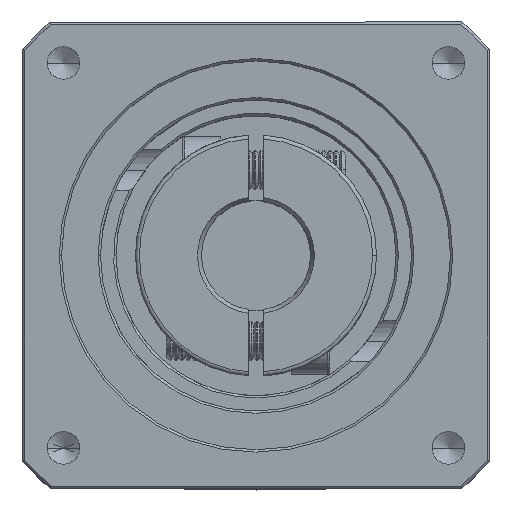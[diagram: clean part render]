
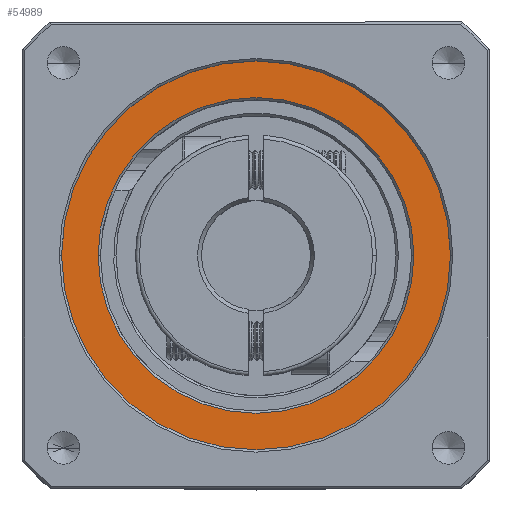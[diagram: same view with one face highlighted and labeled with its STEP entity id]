
A CAD part, top view. The second image highlights one B-rep face of the part: STEP entity #54989.
In plain terms, the highlighted planar face has unit normal (0, 0, 1).
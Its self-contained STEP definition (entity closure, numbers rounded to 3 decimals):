
#224 = DIRECTION ( 'NONE',  ( 0., 0., 1. ) ) ;
#389 = CIRCLE ( 'NONE', #19653, 25. ) ;
#4920 = EDGE_CURVE ( 'NONE', #38290, #34631, #97534, .T. ) ;
#6267 = CARTESIAN_POINT ( 'NONE',  ( -89.162, 23.581, 10.521 ) ) ;
#7974 = AXIS2_PLACEMENT_3D ( 'NONE', #37771, #90474, #45330 ) ;
#8643 = AXIS2_PLACEMENT_3D ( 'NONE', #22843, #75600, #30451 ) ;
#10474 = CIRCLE ( 'NONE', #7974, 20.3 ) ;
#14917 = PLANE ( 'NONE',  #48796 ) ;
#19653 = AXIS2_PLACEMENT_3D ( 'NONE', #35032, #87784, #42589 ) ;
#22843 = CARTESIAN_POINT ( 'NONE',  ( -68.862, 23.581, 10.521 ) ) ;
#23598 = FACE_OUTER_BOUND ( 'NONE', #31679, .T. ) ;
#25752 = CARTESIAN_POINT ( 'NONE',  ( -93.862, 23.581, 10.521 ) ) ;
#26780 = EDGE_CURVE ( 'NONE', #41508, #45451, #87997, .T. ) ;
#28083 = CARTESIAN_POINT ( 'NONE',  ( -48.562, 23.581, 10.521 ) ) ;
#30451 = DIRECTION ( 'NONE',  ( 1., 0., 0. ) ) ;
#31679 = EDGE_LOOP ( 'NONE', ( #47880, #37377 ) ) ;
#34631 = VERTEX_POINT ( 'NONE', #82937 ) ;
#35032 = CARTESIAN_POINT ( 'NONE',  ( -68.862, 23.581, 10.521 ) ) ;
#36239 = EDGE_CURVE ( 'NONE', #45451, #41508, #10474, .T. ) ;
#36837 = ORIENTED_EDGE ( 'NONE', *, *, #26780, .T. ) ;
#37377 = ORIENTED_EDGE ( 'NONE', *, *, #4920, .T. ) ;
#37771 = CARTESIAN_POINT ( 'NONE',  ( -68.862, 23.581, 10.521 ) ) ;
#38290 = VERTEX_POINT ( 'NONE', #25752 ) ;
#39940 = DIRECTION ( 'NONE',  ( 1., 0., 0. ) ) ;
#40073 = DIRECTION ( 'NONE',  ( 0., 0., 1. ) ) ;
#41508 = VERTEX_POINT ( 'NONE', #6267 ) ;
#42589 = DIRECTION ( 'NONE',  ( 1., 0., 0. ) ) ;
#43779 = EDGE_CURVE ( 'NONE', #34631, #38290, #389, .T. ) ;
#45198 = CARTESIAN_POINT ( 'NONE',  ( -68.862, 23.581, 10.521 ) ) ;
#45330 = DIRECTION ( 'NONE',  ( 1., 0., 0. ) ) ;
#45451 = VERTEX_POINT ( 'NONE', #28083 ) ;
#47880 = ORIENTED_EDGE ( 'NONE', *, *, #43779, .T. ) ;
#48796 = AXIS2_PLACEMENT_3D ( 'NONE', #45198, #224, #52830 ) ;
#52830 = DIRECTION ( 'NONE',  ( 1., 0., 0. ) ) ;
#54989 = ADVANCED_FACE ( 'NONE', ( #81414, #23598 ), #14917, .T. ) ;
#57520 = AXIS2_PLACEMENT_3D ( 'NONE', #63216, #40073, #39940 ) ;
#63216 = CARTESIAN_POINT ( 'NONE',  ( -68.862, 23.581, 10.521 ) ) ;
#75600 = DIRECTION ( 'NONE',  ( 0., 0., -1. ) ) ;
#76783 = EDGE_LOOP ( 'NONE', ( #88637, #36837 ) ) ;
#81414 = FACE_BOUND ( 'NONE', #76783, .T. ) ;
#82937 = CARTESIAN_POINT ( 'NONE',  ( -43.862, 23.581, 10.521 ) ) ;
#87784 = DIRECTION ( 'NONE',  ( 0., 0., 1. ) ) ;
#87997 = CIRCLE ( 'NONE', #8643, 20.3 ) ;
#88637 = ORIENTED_EDGE ( 'NONE', *, *, #36239, .T. ) ;
#90474 = DIRECTION ( 'NONE',  ( 0., 0., -1. ) ) ;
#97534 = CIRCLE ( 'NONE', #57520, 25. ) ;
